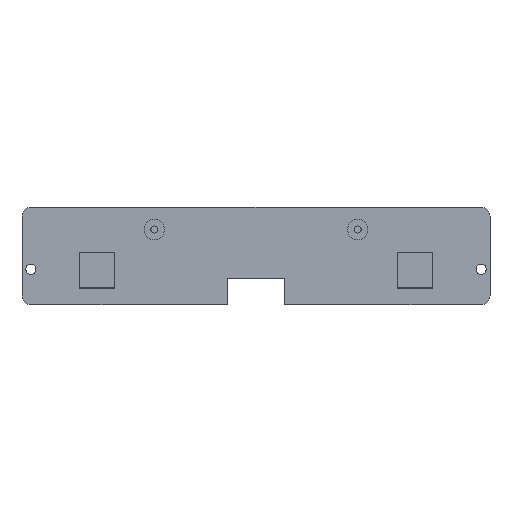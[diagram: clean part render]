
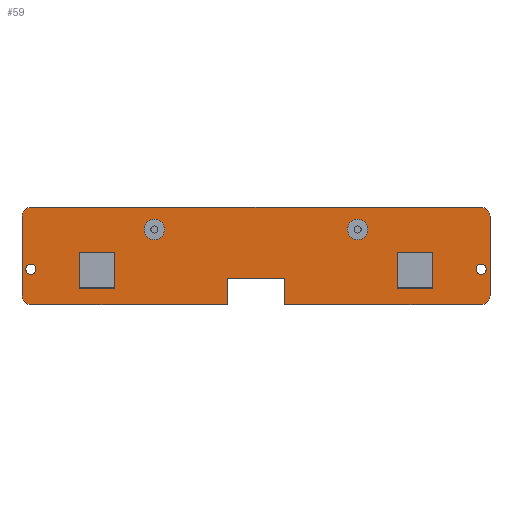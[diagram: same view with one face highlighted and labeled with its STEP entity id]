
A CAD part, top view. The second image highlights one B-rep face of the part: STEP entity #59.
In plain terms, the highlighted planar face has unit normal (0, 0, 1).
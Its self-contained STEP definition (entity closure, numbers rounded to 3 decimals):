
#21 = EDGE_CURVE('',#22,#24,#26,.T.);
#22 = VERTEX_POINT('',#23);
#23 = CARTESIAN_POINT('',(-53.,16.,-23.2));
#24 = VERTEX_POINT('',#25);
#25 = CARTESIAN_POINT('',(-51.,14.,-23.2));
#26 = CIRCLE('',#27,2.);
#27 = AXIS2_PLACEMENT_3D('',#28,#29,#30);
#28 = CARTESIAN_POINT('',(-51.,16.,-23.2));
#29 = DIRECTION('',(0.,0.,1.));
#30 = DIRECTION('',(1.,0.,0.));
#59 = ADVANCED_FACE('',(#60,#152,#163,#197,#231,#242,#253),#264,.T.);
#60 = FACE_BOUND('',#61,.T.);
#61 = EDGE_LOOP('',(#62,#70,#71,#79,#87,#95,#103,#111,#120,#128,#137,
    #145));
#62 = ORIENTED_EDGE('',*,*,#63,.F.);
#63 = EDGE_CURVE('',#22,#64,#66,.T.);
#64 = VERTEX_POINT('',#65);
#65 = CARTESIAN_POINT('',(-53.,34.,-23.2));
#66 = LINE('',#67,#68);
#67 = CARTESIAN_POINT('',(-53.,16.,-23.2));
#68 = VECTOR('',#69,1.);
#69 = DIRECTION('',(0.,1.,0.));
#70 = ORIENTED_EDGE('',*,*,#21,.T.);
#71 = ORIENTED_EDGE('',*,*,#72,.T.);
#72 = EDGE_CURVE('',#24,#73,#75,.T.);
#73 = VERTEX_POINT('',#74);
#74 = CARTESIAN_POINT('',(-6.5,14.,-23.2));
#75 = LINE('',#76,#77);
#76 = CARTESIAN_POINT('',(-51.,14.,-23.2));
#77 = VECTOR('',#78,1.);
#78 = DIRECTION('',(1.,0.,0.));
#79 = ORIENTED_EDGE('',*,*,#80,.T.);
#80 = EDGE_CURVE('',#73,#81,#83,.T.);
#81 = VERTEX_POINT('',#82);
#82 = CARTESIAN_POINT('',(-6.5,20.,-23.2));
#83 = LINE('',#84,#85);
#84 = CARTESIAN_POINT('',(-6.5,19.5,-23.2));
#85 = VECTOR('',#86,1.);
#86 = DIRECTION('',(0.,1.,0.));
#87 = ORIENTED_EDGE('',*,*,#88,.F.);
#88 = EDGE_CURVE('',#89,#81,#91,.T.);
#89 = VERTEX_POINT('',#90);
#90 = CARTESIAN_POINT('',(6.5,20.,-23.2));
#91 = LINE('',#92,#93);
#92 = CARTESIAN_POINT('',(-3.25,20.,-23.2));
#93 = VECTOR('',#94,1.);
#94 = DIRECTION('',(-1.,0.,0.));
#95 = ORIENTED_EDGE('',*,*,#96,.F.);
#96 = EDGE_CURVE('',#97,#89,#99,.T.);
#97 = VERTEX_POINT('',#98);
#98 = CARTESIAN_POINT('',(6.5,14.,-23.2));
#99 = LINE('',#100,#101);
#100 = CARTESIAN_POINT('',(6.5,19.5,-23.2));
#101 = VECTOR('',#102,1.);
#102 = DIRECTION('',(0.,1.,0.));
#103 = ORIENTED_EDGE('',*,*,#104,.T.);
#104 = EDGE_CURVE('',#97,#105,#107,.T.);
#105 = VERTEX_POINT('',#106);
#106 = CARTESIAN_POINT('',(51.,14.,-23.2));
#107 = LINE('',#108,#109);
#108 = CARTESIAN_POINT('',(-51.,14.,-23.2));
#109 = VECTOR('',#110,1.);
#110 = DIRECTION('',(1.,0.,0.));
#111 = ORIENTED_EDGE('',*,*,#112,.T.);
#112 = EDGE_CURVE('',#105,#113,#115,.T.);
#113 = VERTEX_POINT('',#114);
#114 = CARTESIAN_POINT('',(53.,16.,-23.2));
#115 = CIRCLE('',#116,2.);
#116 = AXIS2_PLACEMENT_3D('',#117,#118,#119);
#117 = CARTESIAN_POINT('',(51.,16.,-23.2));
#118 = DIRECTION('',(0.,0.,1.));
#119 = DIRECTION('',(1.,0.,0.));
#120 = ORIENTED_EDGE('',*,*,#121,.T.);
#121 = EDGE_CURVE('',#113,#122,#124,.T.);
#122 = VERTEX_POINT('',#123);
#123 = CARTESIAN_POINT('',(53.,34.,-23.2));
#124 = LINE('',#125,#126);
#125 = CARTESIAN_POINT('',(53.,16.,-23.2));
#126 = VECTOR('',#127,1.);
#127 = DIRECTION('',(0.,1.,0.));
#128 = ORIENTED_EDGE('',*,*,#129,.T.);
#129 = EDGE_CURVE('',#122,#130,#132,.T.);
#130 = VERTEX_POINT('',#131);
#131 = CARTESIAN_POINT('',(51.,36.,-23.2));
#132 = CIRCLE('',#133,2.);
#133 = AXIS2_PLACEMENT_3D('',#134,#135,#136);
#134 = CARTESIAN_POINT('',(51.,34.,-23.2));
#135 = DIRECTION('',(0.,0.,1.));
#136 = DIRECTION('',(1.,0.,0.));
#137 = ORIENTED_EDGE('',*,*,#138,.F.);
#138 = EDGE_CURVE('',#139,#130,#141,.T.);
#139 = VERTEX_POINT('',#140);
#140 = CARTESIAN_POINT('',(-51.,36.,-23.2));
#141 = LINE('',#142,#143);
#142 = CARTESIAN_POINT('',(-51.,36.,-23.2));
#143 = VECTOR('',#144,1.);
#144 = DIRECTION('',(1.,0.,0.));
#145 = ORIENTED_EDGE('',*,*,#146,.T.);
#146 = EDGE_CURVE('',#139,#64,#147,.T.);
#147 = CIRCLE('',#148,2.);
#148 = AXIS2_PLACEMENT_3D('',#149,#150,#151);
#149 = CARTESIAN_POINT('',(-51.,34.,-23.2));
#150 = DIRECTION('',(0.,0.,1.));
#151 = DIRECTION('',(1.,0.,0.));
#152 = FACE_BOUND('',#153,.T.);
#153 = EDGE_LOOP('',(#154));
#154 = ORIENTED_EDGE('',*,*,#155,.F.);
#155 = EDGE_CURVE('',#156,#156,#158,.T.);
#156 = VERTEX_POINT('',#157);
#157 = CARTESIAN_POINT('',(-49.85,22.,-23.2));
#158 = CIRCLE('',#159,1.15);
#159 = AXIS2_PLACEMENT_3D('',#160,#161,#162);
#160 = CARTESIAN_POINT('',(-51.,22.,-23.2));
#161 = DIRECTION('',(0.,0.,1.));
#162 = DIRECTION('',(1.,0.,0.));
#163 = FACE_BOUND('',#164,.T.);
#164 = EDGE_LOOP('',(#165,#175,#183,#191));
#165 = ORIENTED_EDGE('',*,*,#166,.F.);
#166 = EDGE_CURVE('',#167,#169,#171,.T.);
#167 = VERTEX_POINT('',#168);
#168 = CARTESIAN_POINT('',(-40.,17.75,-23.2));
#169 = VERTEX_POINT('',#170);
#170 = CARTESIAN_POINT('',(-32.,17.75,-23.2));
#171 = LINE('',#172,#173);
#172 = CARTESIAN_POINT('',(-40.,17.75,-23.2));
#173 = VECTOR('',#174,1.);
#174 = DIRECTION('',(1.,0.,0.));
#175 = ORIENTED_EDGE('',*,*,#176,.T.);
#176 = EDGE_CURVE('',#167,#177,#179,.T.);
#177 = VERTEX_POINT('',#178);
#178 = CARTESIAN_POINT('',(-40.,25.75,-23.2));
#179 = LINE('',#180,#181);
#180 = CARTESIAN_POINT('',(-40.,17.75,-23.2));
#181 = VECTOR('',#182,1.);
#182 = DIRECTION('',(0.,1.,0.));
#183 = ORIENTED_EDGE('',*,*,#184,.T.);
#184 = EDGE_CURVE('',#177,#185,#187,.T.);
#185 = VERTEX_POINT('',#186);
#186 = CARTESIAN_POINT('',(-32.,25.75,-23.2));
#187 = LINE('',#188,#189);
#188 = CARTESIAN_POINT('',(-40.,25.75,-23.2));
#189 = VECTOR('',#190,1.);
#190 = DIRECTION('',(1.,0.,0.));
#191 = ORIENTED_EDGE('',*,*,#192,.F.);
#192 = EDGE_CURVE('',#169,#185,#193,.T.);
#193 = LINE('',#194,#195);
#194 = CARTESIAN_POINT('',(-32.,17.75,-23.2));
#195 = VECTOR('',#196,1.);
#196 = DIRECTION('',(0.,1.,0.));
#197 = FACE_BOUND('',#198,.T.);
#198 = EDGE_LOOP('',(#199,#209,#217,#225));
#199 = ORIENTED_EDGE('',*,*,#200,.F.);
#200 = EDGE_CURVE('',#201,#203,#205,.T.);
#201 = VERTEX_POINT('',#202);
#202 = CARTESIAN_POINT('',(32.,17.75,-23.2));
#203 = VERTEX_POINT('',#204);
#204 = CARTESIAN_POINT('',(40.,17.75,-23.2));
#205 = LINE('',#206,#207);
#206 = CARTESIAN_POINT('',(32.,17.75,-23.2));
#207 = VECTOR('',#208,1.);
#208 = DIRECTION('',(1.,0.,0.));
#209 = ORIENTED_EDGE('',*,*,#210,.T.);
#210 = EDGE_CURVE('',#201,#211,#213,.T.);
#211 = VERTEX_POINT('',#212);
#212 = CARTESIAN_POINT('',(32.,25.75,-23.2));
#213 = LINE('',#214,#215);
#214 = CARTESIAN_POINT('',(32.,17.75,-23.2));
#215 = VECTOR('',#216,1.);
#216 = DIRECTION('',(0.,1.,0.));
#217 = ORIENTED_EDGE('',*,*,#218,.T.);
#218 = EDGE_CURVE('',#211,#219,#221,.T.);
#219 = VERTEX_POINT('',#220);
#220 = CARTESIAN_POINT('',(40.,25.75,-23.2));
#221 = LINE('',#222,#223);
#222 = CARTESIAN_POINT('',(32.,25.75,-23.2));
#223 = VECTOR('',#224,1.);
#224 = DIRECTION('',(1.,0.,0.));
#225 = ORIENTED_EDGE('',*,*,#226,.F.);
#226 = EDGE_CURVE('',#203,#219,#227,.T.);
#227 = LINE('',#228,#229);
#228 = CARTESIAN_POINT('',(40.,17.75,-23.2));
#229 = VECTOR('',#230,1.);
#230 = DIRECTION('',(0.,1.,0.));
#231 = FACE_BOUND('',#232,.T.);
#232 = EDGE_LOOP('',(#233));
#233 = ORIENTED_EDGE('',*,*,#234,.F.);
#234 = EDGE_CURVE('',#235,#235,#237,.T.);
#235 = VERTEX_POINT('',#236);
#236 = CARTESIAN_POINT('',(52.15,22.,-23.2));
#237 = CIRCLE('',#238,1.15);
#238 = AXIS2_PLACEMENT_3D('',#239,#240,#241);
#239 = CARTESIAN_POINT('',(51.,22.,-23.2));
#240 = DIRECTION('',(0.,0.,1.));
#241 = DIRECTION('',(1.,0.,0.));
#242 = FACE_BOUND('',#243,.T.);
#243 = EDGE_LOOP('',(#244));
#244 = ORIENTED_EDGE('',*,*,#245,.F.);
#245 = EDGE_CURVE('',#246,#246,#248,.T.);
#246 = VERTEX_POINT('',#247);
#247 = CARTESIAN_POINT('',(-20.7,31.,-23.2));
#248 = CIRCLE('',#249,2.3);
#249 = AXIS2_PLACEMENT_3D('',#250,#251,#252);
#250 = CARTESIAN_POINT('',(-23.,31.,-23.2));
#251 = DIRECTION('',(0.,0.,1.));
#252 = DIRECTION('',(1.,0.,0.));
#253 = FACE_BOUND('',#254,.T.);
#254 = EDGE_LOOP('',(#255));
#255 = ORIENTED_EDGE('',*,*,#256,.F.);
#256 = EDGE_CURVE('',#257,#257,#259,.T.);
#257 = VERTEX_POINT('',#258);
#258 = CARTESIAN_POINT('',(25.3,31.,-23.2));
#259 = CIRCLE('',#260,2.3);
#260 = AXIS2_PLACEMENT_3D('',#261,#262,#263);
#261 = CARTESIAN_POINT('',(23.,31.,-23.2));
#262 = DIRECTION('',(0.,0.,1.));
#263 = DIRECTION('',(1.,0.,0.));
#264 = PLANE('',#265);
#265 = AXIS2_PLACEMENT_3D('',#266,#267,#268);
#266 = CARTESIAN_POINT('',(0.,25.,-23.2));
#267 = DIRECTION('',(0.,0.,1.));
#268 = DIRECTION('',(1.,0.,0.));
